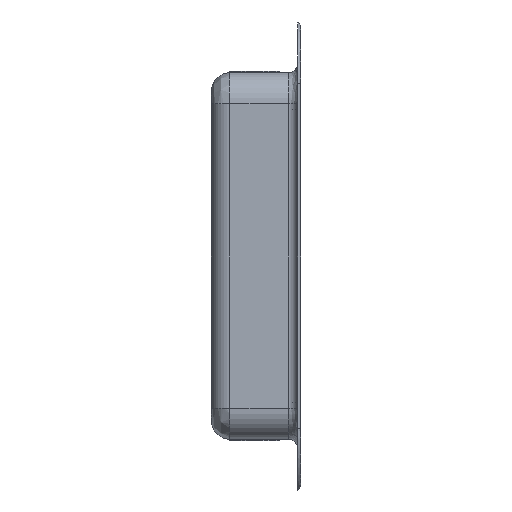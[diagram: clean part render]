
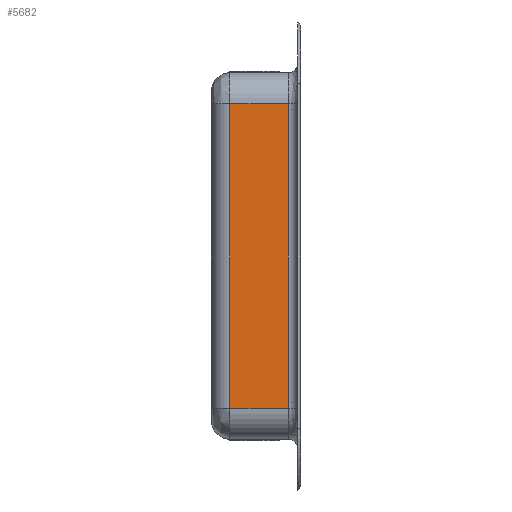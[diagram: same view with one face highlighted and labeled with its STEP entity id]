
A CAD part, left-side view. The second image highlights one B-rep face of the part: STEP entity #5682.
In plain terms, the highlighted planar face has unit normal (-1, 0, 0).
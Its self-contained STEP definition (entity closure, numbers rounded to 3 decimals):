
#156 = EDGE_LOOP ( 'NONE', ( #998, #1449, #11269, #1756 ) ) ;
#302 = VECTOR ( 'NONE', #5484, 1000. ) ;
#875 = DIRECTION ( 'NONE',  ( 1., 0., 0. ) ) ;
#900 = VERTEX_POINT ( 'NONE', #7396 ) ;
#998 = ORIENTED_EDGE ( 'NONE', *, *, #5251, .F. ) ;
#1449 = ORIENTED_EDGE ( 'NONE', *, *, #8527, .F. ) ;
#1756 = ORIENTED_EDGE ( 'NONE', *, *, #2434, .F. ) ;
#2069 = VERTEX_POINT ( 'NONE', #5829 ) ;
#2434 = EDGE_CURVE ( 'NONE', #10850, #6910, #7954, .T. ) ;
#2854 = AXIS2_PLACEMENT_3D ( 'NONE', #5544, #875, #6375 ) ;
#2989 = DIRECTION ( 'NONE',  ( 0., 1., 0. ) ) ;
#3318 = LINE ( 'NONE', #9061, #302 ) ;
#3799 = CARTESIAN_POINT ( 'NONE',  ( -151.5, 23., -49.5 ) ) ;
#5205 = FACE_OUTER_BOUND ( 'NONE', #156, .T. ) ;
#5251 = EDGE_CURVE ( 'NONE', #900, #10850, #3318, .T. ) ;
#5256 = CARTESIAN_POINT ( 'NONE',  ( -151.5, 29., 49.5 ) ) ;
#5484 = DIRECTION ( 'NONE',  ( 0., 0., -1. ) ) ;
#5544 = CARTESIAN_POINT ( 'NONE',  ( -151.5, 29., 59.5 ) ) ;
#5682 = ADVANCED_FACE ( 'NONE', ( #5205 ), #10062, .F. ) ;
#5772 = CARTESIAN_POINT ( 'NONE',  ( -151.5, 29., -49.5 ) ) ;
#5829 = CARTESIAN_POINT ( 'NONE',  ( -151.5, 23., 49.5 ) ) ;
#6167 = LINE ( 'NONE', #8682, #7304 ) ;
#6375 = DIRECTION ( 'NONE',  ( 0., 0., -1. ) ) ;
#6508 = CARTESIAN_POINT ( 'NONE',  ( -151.5, 4., -49.5 ) ) ;
#6553 = VECTOR ( 'NONE', #2989, 1000. ) ;
#6736 = VECTOR ( 'NONE', #10763, 1000. ) ;
#6910 = VERTEX_POINT ( 'NONE', #3799 ) ;
#7304 = VECTOR ( 'NONE', #10539, 1000. ) ;
#7396 = CARTESIAN_POINT ( 'NONE',  ( -151.5, 4., 49.5 ) ) ;
#7954 = LINE ( 'NONE', #5772, #6553 ) ;
#8425 = EDGE_CURVE ( 'NONE', #6910, #2069, #6167, .T. ) ;
#8527 = EDGE_CURVE ( 'NONE', #2069, #900, #9159, .T. ) ;
#8682 = CARTESIAN_POINT ( 'NONE',  ( -151.5, 23., 0. ) ) ;
#9061 = CARTESIAN_POINT ( 'NONE',  ( -151.5, 4., 59.5 ) ) ;
#9159 = LINE ( 'NONE', #5256, #6736 ) ;
#10062 = PLANE ( 'NONE',  #2854 ) ;
#10539 = DIRECTION ( 'NONE',  ( 0., 0., 1. ) ) ;
#10763 = DIRECTION ( 'NONE',  ( 0., -1., 0. ) ) ;
#10850 = VERTEX_POINT ( 'NONE', #6508 ) ;
#11269 = ORIENTED_EDGE ( 'NONE', *, *, #8425, .F. ) ;
